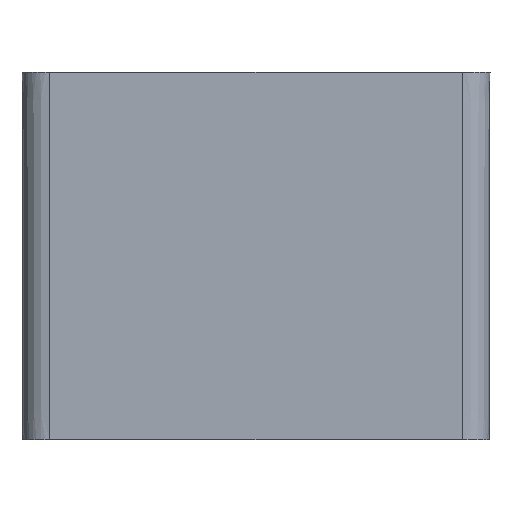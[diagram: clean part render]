
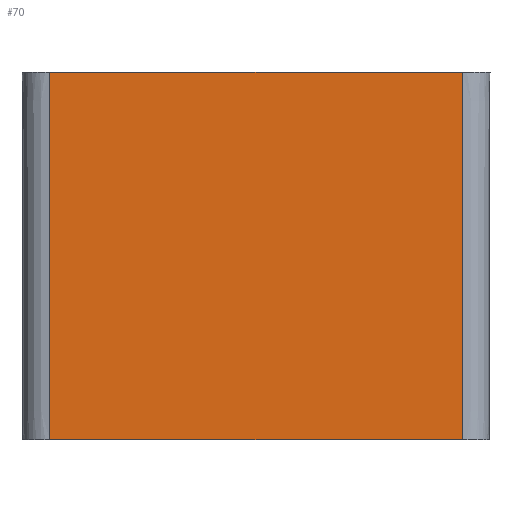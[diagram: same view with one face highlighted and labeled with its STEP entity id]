
A CAD part, front view. The second image highlights one B-rep face of the part: STEP entity #70.
In plain terms, the highlighted planar face has unit normal (0, -1, -0.003).
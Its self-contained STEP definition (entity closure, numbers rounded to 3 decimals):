
#6 = CARTESIAN_POINT ( 'NONE',  ( 11.909, -12.491, 20. ) ) ;
#14 = DIRECTION ( 'NONE',  ( -1., 0., 0. ) ) ;
#70 = ADVANCED_FACE ( 'NONE', ( #1484 ), #1643, .T. ) ;
#77 = DIRECTION ( 'NONE',  ( 1., 0., 0. ) ) ;
#144 = ORIENTED_EDGE ( 'NONE', *, *, #1591, .F. ) ;
#190 = VECTOR ( 'NONE', #77, 1000. ) ;
#213 = EDGE_LOOP ( 'NONE', ( #1536, #544, #820, #144 ) ) ;
#393 = CARTESIAN_POINT ( 'NONE',  ( 11.909, -12.439, 0.15 ) ) ;
#443 = CARTESIAN_POINT ( 'NONE',  ( 0.759, -12.491, 20. ) ) ;
#447 = CARTESIAN_POINT ( 'NONE',  ( -10.391, -12.439, 0.15 ) ) ;
#544 = ORIENTED_EDGE ( 'NONE', *, *, #1035, .F. ) ;
#735 = VERTEX_POINT ( 'NONE', #393 ) ;
#803 = EDGE_CURVE ( 'NONE', #735, #1381, #1074, .T. ) ;
#820 = ORIENTED_EDGE ( 'NONE', *, *, #803, .T. ) ;
#829 = CARTESIAN_POINT ( 'NONE',  ( 0.759, -12.439, 0.15 ) ) ;
#864 = CARTESIAN_POINT ( 'NONE',  ( 11.909, -12.465, 10.075 ) ) ;
#908 = VERTEX_POINT ( 'NONE', #447 ) ;
#970 = DIRECTION ( 'NONE',  ( 0., 0.003, -1. ) ) ;
#1035 = EDGE_CURVE ( 'NONE', #735, #908, #1148, .T. ) ;
#1074 = LINE ( 'NONE', #864, #1926 ) ;
#1128 = CARTESIAN_POINT ( 'NONE',  ( 0.759, -12.465, 10.075 ) ) ;
#1148 = LINE ( 'NONE', #829, #1461 ) ;
#1239 = VERTEX_POINT ( 'NONE', #1719 ) ;
#1340 = DIRECTION ( 'NONE',  ( 0., -0.003, 1. ) ) ;
#1381 = VERTEX_POINT ( 'NONE', #6 ) ;
#1406 = DIRECTION ( 'NONE',  ( 0., -0.003, 1. ) ) ;
#1424 = LINE ( 'NONE', #443, #190 ) ;
#1448 = EDGE_CURVE ( 'NONE', #908, #1239, #2007, .T. ) ;
#1461 = VECTOR ( 'NONE', #14, 1000. ) ;
#1484 = FACE_OUTER_BOUND ( 'NONE', #213, .T. ) ;
#1528 = CARTESIAN_POINT ( 'NONE',  ( -10.391, -10.991, -552.956 ) ) ;
#1536 = ORIENTED_EDGE ( 'NONE', *, *, #1448, .F. ) ;
#1591 = EDGE_CURVE ( 'NONE', #1239, #1381, #1424, .T. ) ;
#1643 = PLANE ( 'NONE',  #1757 ) ;
#1719 = CARTESIAN_POINT ( 'NONE',  ( -10.391, -12.491, 20. ) ) ;
#1757 = AXIS2_PLACEMENT_3D ( 'NONE', #1128, #1834, #970 ) ;
#1834 = DIRECTION ( 'NONE',  ( 0., -1., -0.003 ) ) ;
#1926 = VECTOR ( 'NONE', #1406, 1000. ) ;
#1973 = VECTOR ( 'NONE', #1340, 1000. ) ;
#2007 = LINE ( 'NONE', #1528, #1973 ) ;
